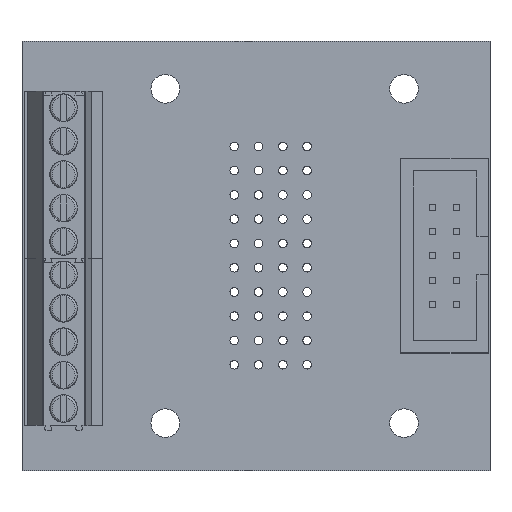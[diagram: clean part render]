
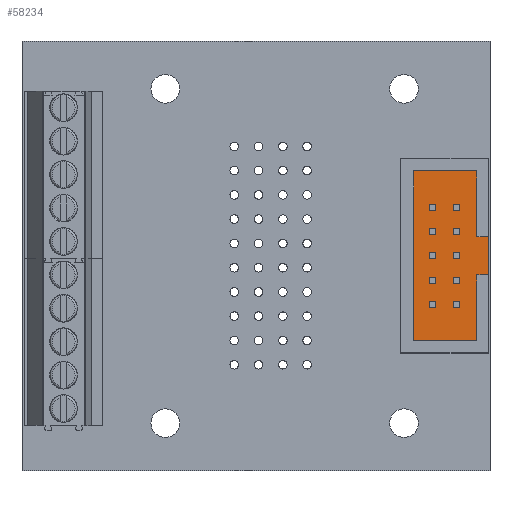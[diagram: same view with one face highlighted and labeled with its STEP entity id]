
A CAD part, top view. The second image highlights one B-rep face of the part: STEP entity #58234.
In plain terms, the highlighted planar face has unit normal (0, 0, 1).
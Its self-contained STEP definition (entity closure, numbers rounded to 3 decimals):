
#57920 = VERTEX_POINT('',#57921);
#57921 = CARTESIAN_POINT('',(4.6,10.16,2.2));
#57928 = PLANE('',#57929);
#57929 = AXIS2_PLACEMENT_3D('',#57930,#57931,#57932);
#57930 = CARTESIAN_POINT('',(4.6,10.16,0.));
#57931 = DIRECTION('',(0.,-1.,0.));
#57932 = DIRECTION('',(-1.,0.,0.));
#57940 = PLANE('',#57941);
#57941 = AXIS2_PLACEMENT_3D('',#57942,#57943,#57944);
#57942 = CARTESIAN_POINT('',(4.6,-10.16,0.));
#57943 = DIRECTION('',(-1.,0.,0.));
#57944 = DIRECTION('',(0.,1.,0.));
#57952 = EDGE_CURVE('',#57920,#57953,#57955,.T.);
#57953 = VERTEX_POINT('',#57954);
#57954 = CARTESIAN_POINT('',(-4.6,10.16,2.2));
#57955 = SURFACE_CURVE('',#57956,(#57960,#57967),.PCURVE_S1.);
#57956 = LINE('',#57957,#57958);
#57957 = CARTESIAN_POINT('',(4.6,10.16,2.2));
#57958 = VECTOR('',#57959,1.);
#57959 = DIRECTION('',(-1.,0.,0.));
#57960 = PCURVE('',#57928,#57961);
#57961 = DEFINITIONAL_REPRESENTATION('',(#57962),#57966);
#57962 = LINE('',#57963,#57964);
#57963 = CARTESIAN_POINT('',(0.,-2.2));
#57964 = VECTOR('',#57965,1.);
#57965 = DIRECTION('',(1.,0.));
#57966 = ( GEOMETRIC_REPRESENTATION_CONTEXT(2) 
PARAMETRIC_REPRESENTATION_CONTEXT() REPRESENTATION_CONTEXT('2D SPACE',''
  ) );
#57967 = PCURVE('',#57968,#57973);
#57968 = PLANE('',#57969);
#57969 = AXIS2_PLACEMENT_3D('',#57970,#57971,#57972);
#57970 = CARTESIAN_POINT('',(4.6,10.16,2.2));
#57971 = DIRECTION('',(0.,0.,-1.));
#57972 = DIRECTION('',(-1.,0.,0.));
#57973 = DEFINITIONAL_REPRESENTATION('',(#57974),#57978);
#57974 = LINE('',#57975,#57976);
#57975 = CARTESIAN_POINT('',(0.,0.));
#57976 = VECTOR('',#57977,1.);
#57977 = DIRECTION('',(1.,0.));
#57978 = ( GEOMETRIC_REPRESENTATION_CONTEXT(2) 
PARAMETRIC_REPRESENTATION_CONTEXT() REPRESENTATION_CONTEXT('2D SPACE',''
  ) );
#57996 = PLANE('',#57997);
#57997 = AXIS2_PLACEMENT_3D('',#57998,#57999,#58000);
#57998 = CARTESIAN_POINT('',(-4.6,10.16,0.));
#57999 = DIRECTION('',(1.,0.,0.));
#58000 = DIRECTION('',(0.,-1.,0.));
#58038 = EDGE_CURVE('',#57953,#58039,#58041,.T.);
#58039 = VERTEX_POINT('',#58040);
#58040 = CARTESIAN_POINT('',(-4.6,-10.16,2.2));
#58041 = SURFACE_CURVE('',#58042,(#58046,#58053),.PCURVE_S1.);
#58042 = LINE('',#58043,#58044);
#58043 = CARTESIAN_POINT('',(-4.6,10.16,2.2));
#58044 = VECTOR('',#58045,1.);
#58045 = DIRECTION('',(0.,-1.,0.));
#58046 = PCURVE('',#57996,#58047);
#58047 = DEFINITIONAL_REPRESENTATION('',(#58048),#58052);
#58048 = LINE('',#58049,#58050);
#58049 = CARTESIAN_POINT('',(0.,-2.2));
#58050 = VECTOR('',#58051,1.);
#58051 = DIRECTION('',(1.,0.));
#58052 = ( GEOMETRIC_REPRESENTATION_CONTEXT(2) 
PARAMETRIC_REPRESENTATION_CONTEXT() REPRESENTATION_CONTEXT('2D SPACE',''
  ) );
#58053 = PCURVE('',#57968,#58054);
#58054 = DEFINITIONAL_REPRESENTATION('',(#58055),#58059);
#58055 = LINE('',#58056,#58057);
#58056 = CARTESIAN_POINT('',(9.2,0.));
#58057 = VECTOR('',#58058,1.);
#58058 = DIRECTION('',(0.,-1.));
#58059 = ( GEOMETRIC_REPRESENTATION_CONTEXT(2) 
PARAMETRIC_REPRESENTATION_CONTEXT() REPRESENTATION_CONTEXT('2D SPACE',''
  ) );
#58077 = PLANE('',#58078);
#58078 = AXIS2_PLACEMENT_3D('',#58079,#58080,#58081);
#58079 = CARTESIAN_POINT('',(-4.6,-10.16,0.));
#58080 = DIRECTION('',(0.,1.,0.));
#58081 = DIRECTION('',(1.,0.,0.));
#58114 = EDGE_CURVE('',#58039,#58115,#58117,.T.);
#58115 = VERTEX_POINT('',#58116);
#58116 = CARTESIAN_POINT('',(4.6,-10.16,2.2));
#58117 = SURFACE_CURVE('',#58118,(#58122,#58129),.PCURVE_S1.);
#58118 = LINE('',#58119,#58120);
#58119 = CARTESIAN_POINT('',(-4.6,-10.16,2.2));
#58120 = VECTOR('',#58121,1.);
#58121 = DIRECTION('',(1.,0.,0.));
#58122 = PCURVE('',#58077,#58123);
#58123 = DEFINITIONAL_REPRESENTATION('',(#58124),#58128);
#58124 = LINE('',#58125,#58126);
#58125 = CARTESIAN_POINT('',(0.,-2.2));
#58126 = VECTOR('',#58127,1.);
#58127 = DIRECTION('',(1.,0.));
#58128 = ( GEOMETRIC_REPRESENTATION_CONTEXT(2) 
PARAMETRIC_REPRESENTATION_CONTEXT() REPRESENTATION_CONTEXT('2D SPACE',''
  ) );
#58129 = PCURVE('',#57968,#58130);
#58130 = DEFINITIONAL_REPRESENTATION('',(#58131),#58135);
#58131 = LINE('',#58132,#58133);
#58132 = CARTESIAN_POINT('',(9.2,-20.32));
#58133 = VECTOR('',#58134,1.);
#58134 = DIRECTION('',(-1.,0.));
#58135 = ( GEOMETRIC_REPRESENTATION_CONTEXT(2) 
PARAMETRIC_REPRESENTATION_CONTEXT() REPRESENTATION_CONTEXT('2D SPACE',''
  ) );
#58185 = EDGE_CURVE('',#58115,#57920,#58186,.T.);
#58186 = SURFACE_CURVE('',#58187,(#58191,#58198),.PCURVE_S1.);
#58187 = LINE('',#58188,#58189);
#58188 = CARTESIAN_POINT('',(4.6,-10.16,2.2));
#58189 = VECTOR('',#58190,1.);
#58190 = DIRECTION('',(0.,1.,0.));
#58191 = PCURVE('',#57940,#58192);
#58192 = DEFINITIONAL_REPRESENTATION('',(#58193),#58197);
#58193 = LINE('',#58194,#58195);
#58194 = CARTESIAN_POINT('',(0.,-2.2));
#58195 = VECTOR('',#58196,1.);
#58196 = DIRECTION('',(1.,0.));
#58197 = ( GEOMETRIC_REPRESENTATION_CONTEXT(2) 
PARAMETRIC_REPRESENTATION_CONTEXT() REPRESENTATION_CONTEXT('2D SPACE',''
  ) );
#58198 = PCURVE('',#57968,#58199);
#58199 = DEFINITIONAL_REPRESENTATION('',(#58200),#58204);
#58200 = LINE('',#58201,#58202);
#58201 = CARTESIAN_POINT('',(0.,-20.32));
#58202 = VECTOR('',#58203,1.);
#58203 = DIRECTION('',(0.,1.));
#58204 = ( GEOMETRIC_REPRESENTATION_CONTEXT(2) 
PARAMETRIC_REPRESENTATION_CONTEXT() REPRESENTATION_CONTEXT('2D SPACE',''
  ) );
#58234 = ADVANCED_FACE('',(#58235),#57968,.F.);
#58235 = FACE_BOUND('',#58236,.T.);
#58236 = EDGE_LOOP('',(#58237,#58238,#58239,#58240));
#58237 = ORIENTED_EDGE('',*,*,#57952,.T.);
#58238 = ORIENTED_EDGE('',*,*,#58038,.T.);
#58239 = ORIENTED_EDGE('',*,*,#58114,.T.);
#58240 = ORIENTED_EDGE('',*,*,#58185,.T.);
